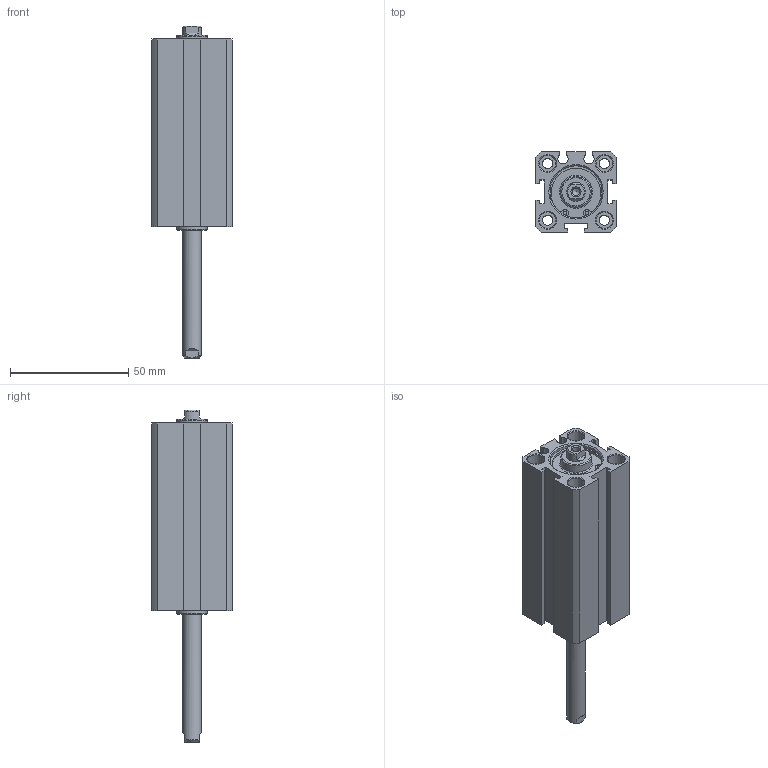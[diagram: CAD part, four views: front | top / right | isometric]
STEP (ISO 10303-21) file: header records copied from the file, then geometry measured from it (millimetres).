
FILE_DESCRIPTION((''),'2;1');
FILE_NAME('I:\3D電子目錄\氣缸\JDD\JDD-S\JDD20-S\JDD20x50-S.stp','2007-02-08T14:20:01',('662F206'),(''),'Autodesk Inventor 10','Autodesk Inventor 10','');
FILE_SCHEMA(('AUTOMOTIVE_DESIGN { 1 0 10303 214 1 1 1 1 }'));
Length unit declared in the file: millimetre
Products named in the file (3): JDD20-S; R 形環 23
Assembly tree (3 placements, depth 2):
  JDD20-S
    JDD20-S
    R 形環 23  x2
Bounding box: 34 x 34 x 140.5 mm (x, y, z)
Volume: 76833.3 mm3; surface area: 25144.8 mm2
Topology: 3 solids, 3 shells, 149 faces, 346 edges, 225 vertices
Faces by surface type: plane 70, cylinder 47, cone 18, bspline 12, torus 2
Full cylindrical faces by diameter (mm): 1.5 x6, 4.3 x4, 7 x8, 8 x1, 13 x2, 22 x4, 23.2 x2
Entity records: 3819 total; most frequent: CARTESIAN_POINT 813, DIRECTION 626, ORIENTED_EDGE 514, EDGE_CURVE 257, AXIS2_PLACEMENT_3D 246, EDGE_LOOP 220, VERTEX_POINT 195, FACE_OUTER_BOUND 137
